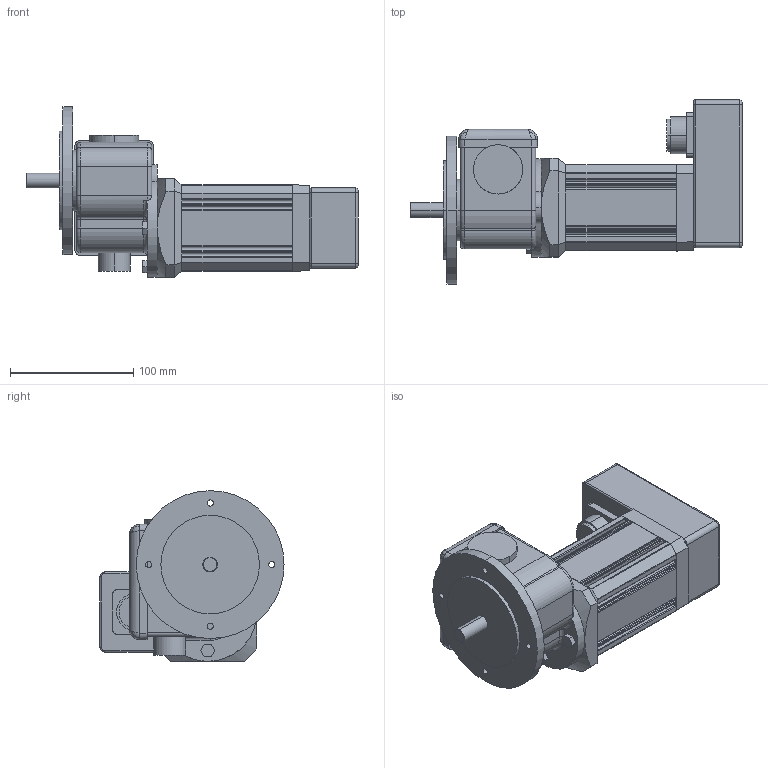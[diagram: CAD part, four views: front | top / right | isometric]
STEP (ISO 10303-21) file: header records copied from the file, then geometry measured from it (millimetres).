
FILE_DESCRIPTION(('OneSpaceDesigner STEP Export'),'2;1');
FILE_NAME('UECG303TH_GF23_Q.stp','2008-06-25T11:28:29',(''),(''),'OneSpace Designer STEP processor (Jan. 2003) for AP214(CD)(Solid Model)','OneSpace Designer 12.01D 09-Jul-2004 (C) CoCreate Software GmbH','');
FILE_SCHEMA(('AUTOMOTIVE_DESIGN_CC2 {1 2 10303 214 -1 1 5 1}'));
Length unit declared in the file: millimetre
Products named in the file (2): UECG303TH_GF23_Q
Assembly tree (1 placements, depth 2):
  UECG303TH_GF23_Q
    UECG303TH_GF23_Q
Bounding box: 269.5 x 149.5 x 138.5 mm (x, y, z)
Volume: 1571361.6 mm3; surface area: 136947.9 mm2
Topology: 1 solids, 1 shells, 335 faces, 846 edges, 524 vertices
Faces by surface type: plane 163, cylinder 133, torus 20, bspline 12, cone 6, sphere 1
Entity records: 11672 total; most frequent: CARTESIAN_POINT 3905, ORIENTED_EDGE 1690, DIRECTION 1504, EDGE_CURVE 845, VERTEX_POINT 524, AXIS2_PLACEMENT_3D 516, VECTOR 472, LINE 472
